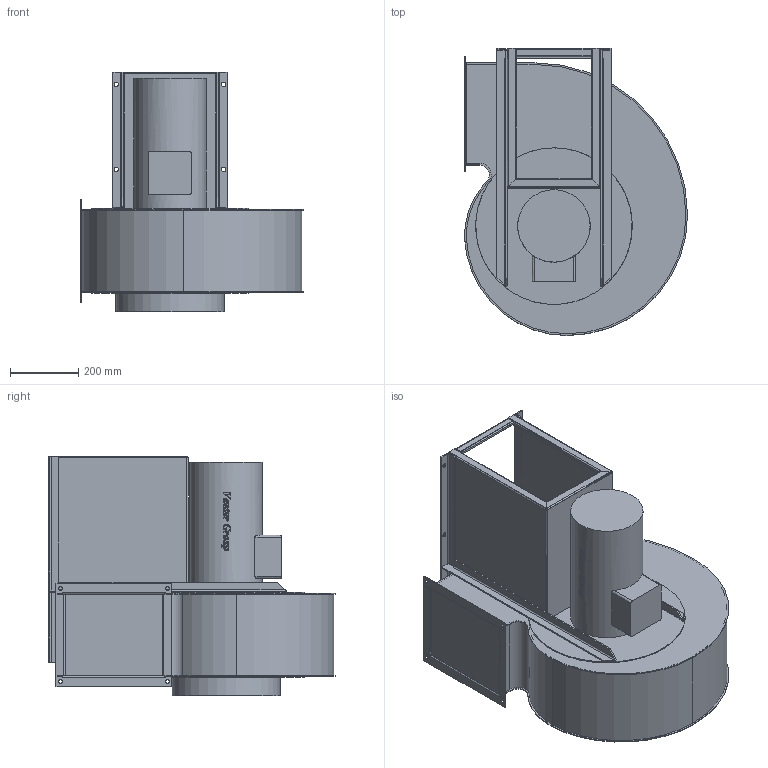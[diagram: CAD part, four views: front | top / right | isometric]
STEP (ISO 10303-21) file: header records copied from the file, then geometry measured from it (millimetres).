
FILE_DESCRIPTION(/* description */ (''),/* implementation_level */ '2;1');
FILE_NAME(/* name */ 'T:\BAZA\BAZA\Modele uproszczone\GMT\GMT_700_750T_LG270_43551870\GMT_700_750T_LG270_43551870.stp',/* time_stamp */ '2016-08-18T13:39:41+02:00',/* author */ ('tomaszm'),/* organization */ (''),/* preprocessor_version */ 'ST-DEVELOPER v16.5',/* originating_system */ 'Autodesk Inventor 2017',/* authorisation */ '');
FILE_SCHEMA (('AUTOMOTIVE_DESIGN { 1 0 10303 214 3 1 1 }'));
Length unit declared in the file: centimetre
Products named in the file (1): GMT-700-750
Bounding box: 655.7 x 842.94 x 702.74 mm (x, y, z)
Volume: 118544676.9 mm3; surface area: 3486550.8 mm2
Topology: 2 solids, 15 shells, 729 faces, 1968 edges, 1288 vertices
Faces by surface type: plane 368, bspline 276, cylinder 85
Full cylindrical faces by diameter (mm): 9.2 x8, 11.1 x4, 13 x6, 212.8 x1, 315 x1, 318 x1, 414 x1, 460 x2
Entity records: 27766 total; most frequent: CARTESIAN_POINT 10874, ORIENTED_EDGE 3910, DIRECTION 2595, EDGE_CURVE 1943, VERTEX_POINT 1287, LINE 1099, VECTOR 1099, EDGE_LOOP 808
